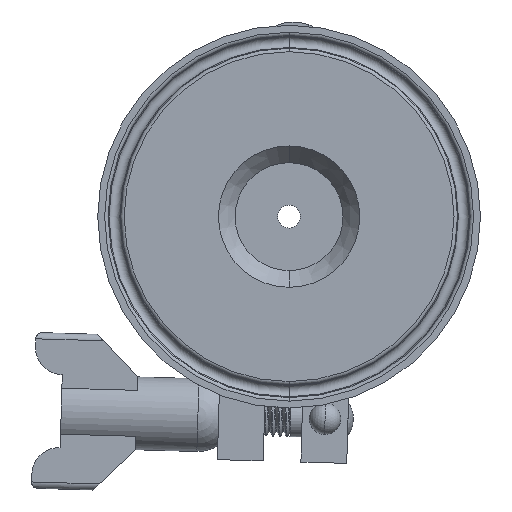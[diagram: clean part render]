
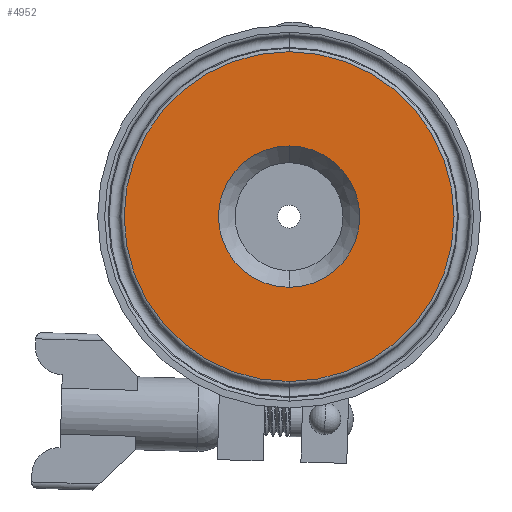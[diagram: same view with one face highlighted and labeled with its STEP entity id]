
A CAD part, front view. The second image highlights one B-rep face of the part: STEP entity #4952.
In plain terms, the highlighted planar face has unit normal (0, -1, 0).
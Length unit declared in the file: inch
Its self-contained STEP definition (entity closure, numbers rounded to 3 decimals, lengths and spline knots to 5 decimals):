
#105 = CIRCLE ( 'NONE', #1455, 0.5625 ) ;
#107 = CARTESIAN_POINT ( 'NONE',  ( 1.07831, 0.94434, 1.49574 ) ) ;
#982 = AXIS2_PLACEMENT_3D ( 'NONE', #1074, #1028, #1024 ) ;
#1024 = DIRECTION ( 'NONE',  ( 0., 0., 1. ) ) ;
#1028 = DIRECTION ( 'NONE',  ( 0., 1., 0. ) ) ;
#1053 = PLANE ( 'NONE',  #982 ) ;
#1074 = CARTESIAN_POINT ( 'NONE',  ( 0.51581, 0.94434, 2.80871 ) ) ;
#1455 = AXIS2_PLACEMENT_3D ( 'NONE', #9615, #9611, #9599 ) ;
#2732 = VERTEX_POINT ( 'NONE', #5868 ) ;
#2916 = EDGE_CURVE ( 'NONE', #2732, #3872, #11772, .T. ) ;
#3160 = EDGE_CURVE ( 'NONE', #9686, #8538, #11400, .T. ) ;
#3670 = CARTESIAN_POINT ( 'NONE',  ( 1.07831, 0.94434, 3.37121 ) ) ;
#3872 = VERTEX_POINT ( 'NONE', #3670 ) ;
#3968 = EDGE_LOOP ( 'NONE', ( #6579, #6538 ) ) ;
#4523 = EDGE_CURVE ( 'NONE', #8538, #9686, #9101, .T. ) ;
#4843 = DIRECTION ( 'NONE',  ( 0., 0., -1. ) ) ;
#4844 = DIRECTION ( 'NONE',  ( 0., -1., 0. ) ) ;
#4856 = CARTESIAN_POINT ( 'NONE',  ( 1.07831, 0.94434, 2.80871 ) ) ;
#4952 = ADVANCED_FACE ( 'NONE', ( #8392, #8354 ), #1053, .F. ) ;
#5101 = AXIS2_PLACEMENT_3D ( 'NONE', #12135, #12160, #12391 ) ;
#5813 = AXIS2_PLACEMENT_3D ( 'NONE', #7762, #7748, #7732 ) ;
#5868 = CARTESIAN_POINT ( 'NONE',  ( 1.07831, 0.94434, 2.24621 ) ) ;
#6206 = AXIS2_PLACEMENT_3D ( 'NONE', #4856, #4844, #4843 ) ;
#6538 = ORIENTED_EDGE ( 'NONE', *, *, #4523, .T. ) ;
#6579 = ORIENTED_EDGE ( 'NONE', *, *, #3160, .T. ) ;
#6633 = ORIENTED_EDGE ( 'NONE', *, *, #12213, .F. ) ;
#6652 = ORIENTED_EDGE ( 'NONE', *, *, #2916, .F. ) ;
#7732 = DIRECTION ( 'NONE',  ( 0., 0., -1. ) ) ;
#7748 = DIRECTION ( 'NONE',  ( 0., -1., 0. ) ) ;
#7762 = CARTESIAN_POINT ( 'NONE',  ( 1.07831, 0.94434, 2.80871 ) ) ;
#7885 = EDGE_LOOP ( 'NONE', ( #6652, #6633 ) ) ;
#8354 = FACE_OUTER_BOUND ( 'NONE', #3968, .T. ) ;
#8392 = FACE_BOUND ( 'NONE', #7885, .T. ) ;
#8488 = CARTESIAN_POINT ( 'NONE',  ( 1.07831, 0.94434, 4.12168 ) ) ;
#8538 = VERTEX_POINT ( 'NONE', #8488 ) ;
#9101 = CIRCLE ( 'NONE', #5101, 1.31297 ) ;
#9599 = DIRECTION ( 'NONE',  ( 0., 0., -1. ) ) ;
#9611 = DIRECTION ( 'NONE',  ( 0., -1., 0. ) ) ;
#9615 = CARTESIAN_POINT ( 'NONE',  ( 1.07831, 0.94434, 2.80871 ) ) ;
#9686 = VERTEX_POINT ( 'NONE', #107 ) ;
#11400 = CIRCLE ( 'NONE', #5813, 1.31297 ) ;
#11772 = CIRCLE ( 'NONE', #6206, 0.5625 ) ;
#12135 = CARTESIAN_POINT ( 'NONE',  ( 1.07831, 0.94434, 2.80871 ) ) ;
#12160 = DIRECTION ( 'NONE',  ( 0., -1., 0. ) ) ;
#12213 = EDGE_CURVE ( 'NONE', #3872, #2732, #105, .T. ) ;
#12391 = DIRECTION ( 'NONE',  ( 0., 0., -1. ) ) ;
